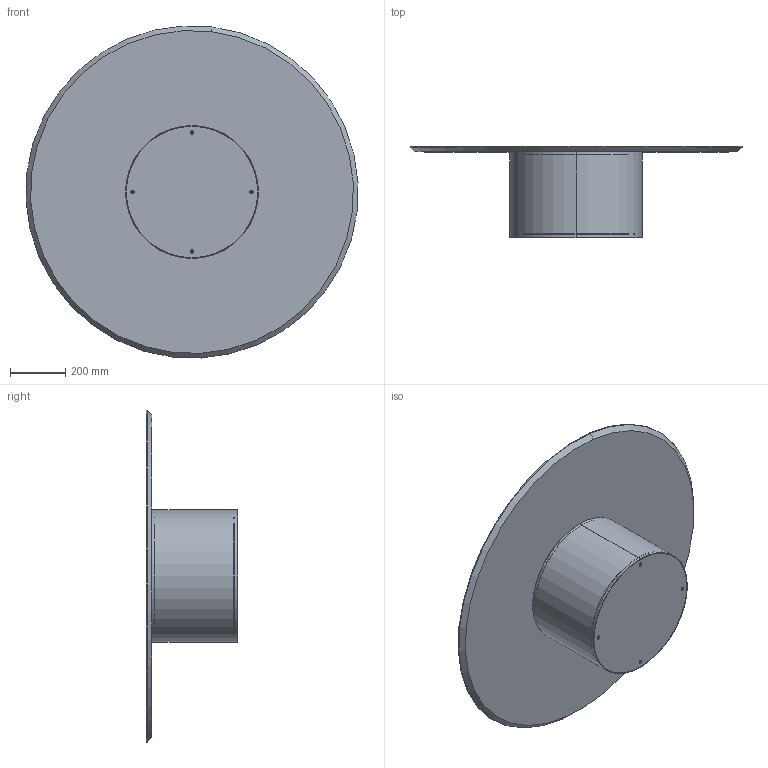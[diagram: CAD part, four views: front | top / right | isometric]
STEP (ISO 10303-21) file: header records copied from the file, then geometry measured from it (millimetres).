
FILE_DESCRIPTION (( 'STEP AP203' ), '1' );
FILE_NAME ('CL14W.STEP', '2024-08-06T10:16:44', ( '' ), ( '' ), 'SwSTEP 2.0', 'SolidWorks 2022', '' );
FILE_SCHEMA (( 'CONFIG_CONTROL_DESIGN' ));
Length unit declared in the file: millimetre
Products named in the file (8): CLB1000000_02-00-Fusto centrale d.48cm; M6xXXmm_HEX_M6x20mm HEX; CL14W; CLB1000000_03-00-Zavorra cilindro low D.48cm; CLB1000000_01-00-Supporto piano fusto D.48cm; W1XCMXX-00-Piani Rotondi legno_D.1200; CLB1000000_04-00-Supporto Zavorra fusto D.48cm; CLB1000000-00-CILINDRO LOW D.48cm BASE GREZZA
Assembly tree (10 placements, depth 3):
  CL14W
    CLB1000000-00-CILINDRO LOW D.48cm BASE GREZZA
      CLB1000000_02-00-Fusto centrale d.48cm
      CLB1000000_03-00-Zavorra cilindro low D.48cm
      CLB1000000_01-00-Supporto piano fusto D.48cm
      CLB1000000_04-00-Supporto Zavorra fusto D.48cm
      M6xXXmm_HEX_M6x20mm HEX  x4
    W1XCMXX-00-Piani Rotondi legno_D.1200
Bounding box: 1198.22 x 330 x 1198.22 mm (x, y, z)
Volume: 25297235.2 mm3; surface area: 3887362.1 mm2
Topology: 11 solids, 11 shells, 237 faces, 513 edges, 290 vertices
Faces by surface type: plane 108, cylinder 71, cone 48, torus 8, bspline 2
Entity records: 5051 total; most frequent: CARTESIAN_POINT 1013, DIRECTION 707, ORIENTED_EDGE 598, EDGE_CURVE 299, AXIS2_PLACEMENT_3D 285, VERTEX_POINT 185, EDGE_LOOP 166, CIRCLE 138
